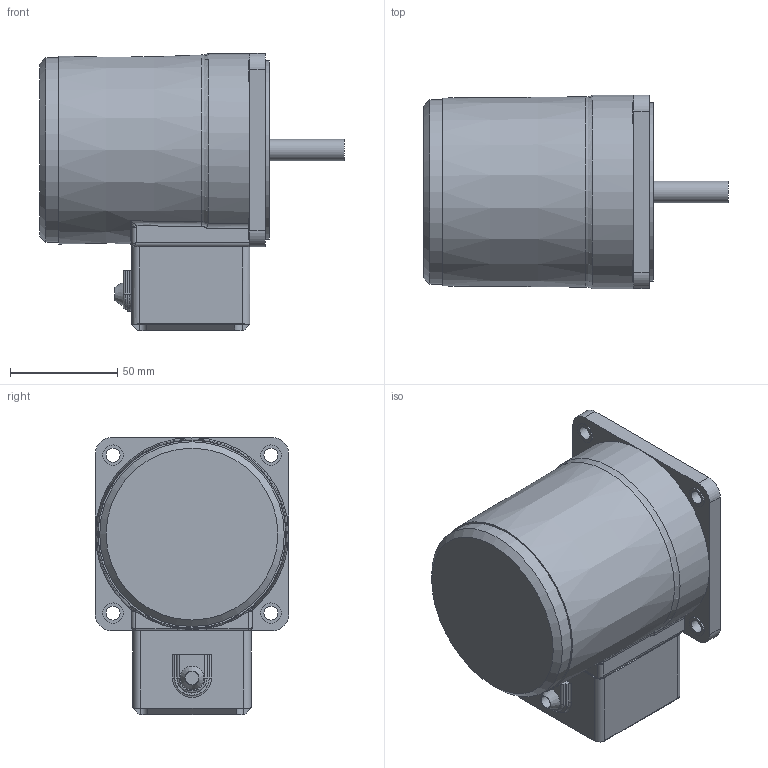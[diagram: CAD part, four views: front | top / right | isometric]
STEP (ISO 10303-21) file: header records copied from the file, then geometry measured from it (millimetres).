
FILE_DESCRIPTION((''),'2;1');
FILE_NAME('D:\STP파일\40W MOTOR\T1 BOX TYPE\S9I40S-T1.stp','2013-05-20T16:56:20',('leebh'),(''),'Autodesk Inventor 2011','Autodesk Inventor 2011','');
FILE_SCHEMA(('AUTOMOTIVE_DESIGN { 1 0 10303 214 1 1 1 1 }'));
Length unit declared in the file: millimetre
Products named in the file (1): 부품3
Bounding box: 142 x 90 x 129 mm (x, y, z)
Volume: 778942.2 mm3; surface area: 58772.2 mm2
Topology: 1 solids, 2 shells, 148 faces, 368 edges, 232 vertices
Faces by surface type: plane 68, cylinder 55, bspline 18, torus 4, cone 3
Full cylindrical faces by diameter (mm): 6.5 x4, 8 x1, 9.5 x4, 10 x1, 40 x1, 83 x1, 86 x1
Entity records: 4821 total; most frequent: CARTESIAN_POINT 1351, DIRECTION 717, ORIENTED_EDGE 690, EDGE_CURVE 345, AXIS2_PLACEMENT_3D 271, VERTEX_POINT 230, EDGE_LOOP 185, VECTOR 175
